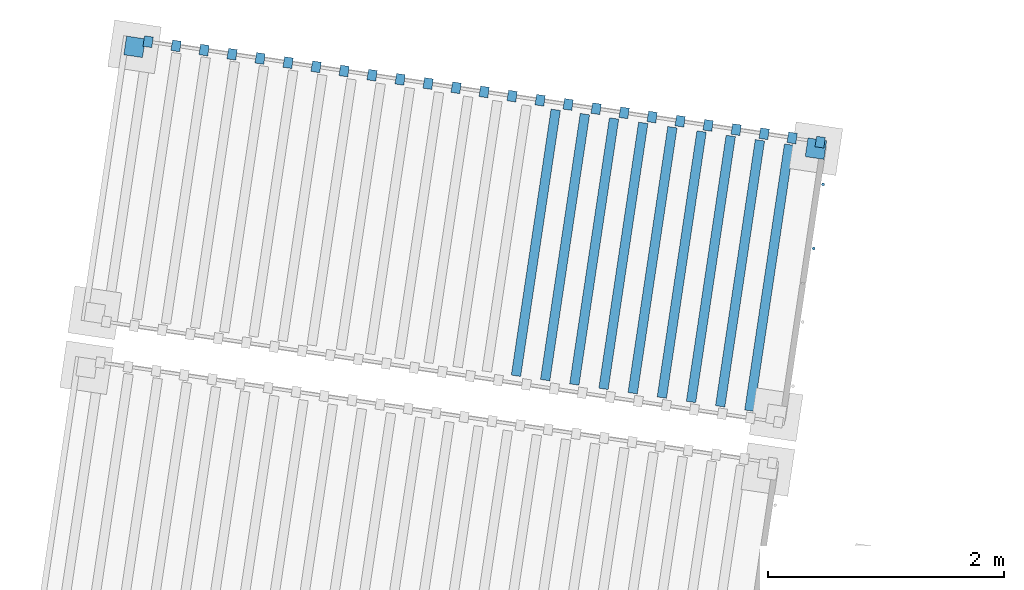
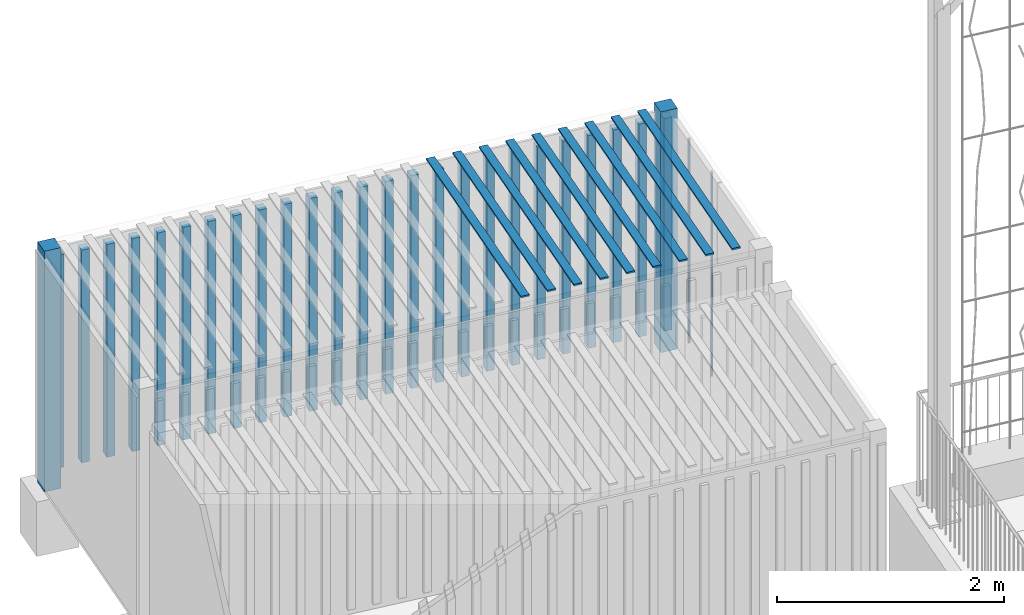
# One storey, part 82 of 142: 38 members, 1 element without a shape of its own.
"""IFC4 building model written with IfcOpenShell, lengths in metres."""

from ifc_helpers import new_model, si_unit, direction, frame, origin_with_axes, place, context, subcontext, project, spatial, polyline, circle, outline, extrude, material, material_profile, profile_set, profile_usage, type_object, element, aggregate, save


model = new_model("IFC4")

# Units and contexts
model_context = context("Model", 3, precision=1e-05, world=origin_with_axes(), true_north=direction((0.0, 1.0)))
body_context = subcontext(model_context, "Body", "Model", "MODEL_VIEW")
ifc_project = project(units=[si_unit("VOLUMEUNIT", "CUBIC_METRE"), si_unit("LENGTHUNIT", "METRE"), si_unit("AREAUNIT", "SQUARE_METRE")], contexts=[model_context])

# Site, building, storey
site_placement = place(None, origin_with_axes())
site = spatial("IfcSite", under=ifc_project, at=site_placement, Name="Lares · Rua das Mercês · artigo 4771")
building_placement = place(site_placement, frame((12.0, 10.2, 13.9), z_axis=(0.0, 0.0, 1.0), x_axis=(0.989015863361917, -0.147809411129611, 0.0)))
building = spatial("IfcBuilding", under=site, at=building_placement, Name="Casa Sobreposta")
storey_placement = place(building_placement, origin_with_axes())
storey = spatial("IfcBuildingStorey", under=building, at=storey_placement, Name="00 · Habitação e estacionamento", Elevation=13.9)

# Assembly, members
assembly_placement = place(storey_placement, origin_with_axes())
assembly = element("IfcElementAssembly", 1, at=assembly_placement, inside=storey, ObjectType="EXISTING_SHIPPING_CONTAINER", PredefinedType="USERDEFINED")
ifc_material_1 = material(Name="Aço galvanizado / Stahl verzinkt", Category="steel")
ifc_material_profile = material_profile(ifc_material_1, circle(Radius=0.0125))
ifc_profile_set = profile_set([ifc_material_profile], Name="D0.025")
ifc_profile_usage_1 = profile_usage(ifc_profile_set)
member_type = type_object("IfcMemberType", Name="D0.025 / galvanized", PredefinedType="NOTDEFINED", material=ifc_profile_set)
member_1_placement = place(assembly_placement, frame((-6.975, 9.27, -0.229831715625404), z_axis=(0.0, 0.0, 1.0), x_axis=(1.0, 0.0, 0.0)))
member_1 = element("IfcMember", 2, at=member_1_placement, type_object=member_type, material=ifc_profile_usage_1, Name="Contentor · varão de fecho", context=body_context, shape_type="SweptSolid", body=[
    extrude(circle(Radius=0.0125), origin_with_axes(), (0.0, 0.0, 1.0), 2.2),
])
ifc_profile_usage_2 = profile_usage(ifc_profile_set)
member_2_placement = place(assembly_placement, frame((-6.975, 9.82, -0.229831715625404), z_axis=(0.0, 0.0, 1.0), x_axis=(1.0, 0.0, 0.0)))
member_2 = element("IfcMember", 3, at=member_2_placement, type_object=member_type, material=ifc_profile_usage_2, Name="Contentor · varão de fecho", context=body_context, shape_type="SweptSolid", body=[
    extrude(circle(Radius=0.0125), origin_with_axes(), (0.0, 0.0, 1.0), 2.2),
])
ifc_material_2 = material(Name="Contentor · pintura 2", Category="steel")
member_3_placement = place(assembly_placement, frame((0.0, 0.0, -0.429831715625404), z_axis=(0.0, 0.0, 1.0), x_axis=(1.0, 0.0, 0.0)))
member_3 = element("IfcMember", 4, at=member_3_placement, material=ifc_material_2, Name="Contentor · canto", context=body_context, shape_type="SweptSolid", body=[
    extrude(outline(polyline([(-12.84, 10.03), (-12.84, 10.19), (-13.0, 10.19), (-13.0, 10.03), (-12.84, 10.03)])), origin_with_axes(), (0.0, 0.0, 1.0), 2.59),
])
member_4_placement = place(assembly_placement, frame((0.0, 0.0, -0.429831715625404), z_axis=(0.0, 0.0, 1.0), x_axis=(1.0, 0.0, 0.0)))
member_4 = element("IfcMember", 5, at=member_4_placement, material=ifc_material_2, Name="Contentor · canto", context=body_context, shape_type="SweptSolid", body=[
    extrude(outline(polyline([(-7.0, 10.03), (-7.0, 10.19), (-7.16, 10.19), (-7.16, 10.03), (-7.0, 10.03)])), origin_with_axes(), (0.0, 0.0, 1.0), 2.59),
])
member_5_placement = place(assembly_placement, frame((0.0, 0.0, -0.279831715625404), z_axis=(0.0, 0.0, 1.0), x_axis=(1.0, 0.0, 0.0)))
member_5 = element("IfcMember", 6, at=member_5_placement, material=ifc_material_2, Name="Contentor · nervura lateral", context=body_context, shape_type="SweptSolid", body=[
    extrude(outline(polyline([(-12.775, 10.125), (-12.775, 10.215), (-12.85, 10.215), (-12.85, 10.125), (-12.775, 10.125)])), origin_with_axes(), (0.0, 0.0, 1.0), 2.29),
])
member_6_placement = place(assembly_placement, frame((0.0, 0.0, -0.279831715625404), z_axis=(0.0, 0.0, 1.0), x_axis=(1.0, 0.0, 0.0)))
member_6 = element("IfcMember", 7, at=member_6_placement, material=ifc_material_2, Name="Contentor · nervura lateral", context=body_context, shape_type="SweptSolid", body=[
    extrude(outline(polyline([(-12.535, 10.125), (-12.535, 10.215), (-12.61, 10.215), (-12.61, 10.125), (-12.535, 10.125)])), origin_with_axes(), (0.0, 0.0, 1.0), 2.29),
])
member_7_placement = place(assembly_placement, frame((0.0, 0.0, -0.279831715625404), z_axis=(0.0, 0.0, 1.0), x_axis=(1.0, 0.0, 0.0)))
member_7 = element("IfcMember", 8, at=member_7_placement, material=ifc_material_2, Name="Contentor · nervura lateral", context=body_context, shape_type="SweptSolid", body=[
    extrude(outline(polyline([(-12.295, 10.125), (-12.295, 10.215), (-12.37, 10.215), (-12.37, 10.125), (-12.295, 10.125)])), origin_with_axes(), (0.0, 0.0, 1.0), 2.29),
])
member_8_placement = place(assembly_placement, frame((0.0, 0.0, -0.279831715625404), z_axis=(0.0, 0.0, 1.0), x_axis=(1.0, 0.0, 0.0)))
member_8 = element("IfcMember", 9, at=member_8_placement, material=ifc_material_2, Name="Contentor · nervura lateral", context=body_context, shape_type="SweptSolid", body=[
    extrude(outline(polyline([(-12.055, 10.125), (-12.055, 10.215), (-12.13, 10.215), (-12.13, 10.125), (-12.055, 10.125)])), origin_with_axes(), (0.0, 0.0, 1.0), 2.29),
])
member_9_placement = place(assembly_placement, frame((0.0, 0.0, -0.279831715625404), z_axis=(0.0, 0.0, 1.0), x_axis=(1.0, 0.0, 0.0)))
member_9 = element("IfcMember", 10, at=member_9_placement, material=ifc_material_2, Name="Contentor · nervura lateral", context=body_context, shape_type="SweptSolid", body=[
    extrude(outline(polyline([(-11.815, 10.125), (-11.815, 10.215), (-11.89, 10.215), (-11.89, 10.125), (-11.815, 10.125)])), origin_with_axes(), (0.0, 0.0, 1.0), 2.29),
])
member_10_placement = place(assembly_placement, frame((0.0, 0.0, -0.279831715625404), z_axis=(0.0, 0.0, 1.0), x_axis=(1.0, 0.0, 0.0)))
member_10 = element("IfcMember", 11, at=member_10_placement, material=ifc_material_2, Name="Contentor · nervura lateral", context=body_context, shape_type="SweptSolid", body=[
    extrude(outline(polyline([(-11.575, 10.125), (-11.575, 10.215), (-11.65, 10.215), (-11.65, 10.125), (-11.575, 10.125)])), origin_with_axes(), (0.0, 0.0, 1.0), 2.29),
])
member_11_placement = place(assembly_placement, frame((0.0, 0.0, -0.279831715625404), z_axis=(0.0, 0.0, 1.0), x_axis=(1.0, 0.0, 0.0)))
member_11 = element("IfcMember", 12, at=member_11_placement, material=ifc_material_2, Name="Contentor · nervura lateral", context=body_context, shape_type="SweptSolid", body=[
    extrude(outline(polyline([(-11.335, 10.125), (-11.335, 10.215), (-11.41, 10.215), (-11.41, 10.125), (-11.335, 10.125)])), origin_with_axes(), (0.0, 0.0, 1.0), 2.29),
])
member_12_placement = place(assembly_placement, frame((0.0, 0.0, -0.279831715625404), z_axis=(0.0, 0.0, 1.0), x_axis=(1.0, 0.0, 0.0)))
member_12 = element("IfcMember", 13, at=member_12_placement, material=ifc_material_2, Name="Contentor · nervura lateral", context=body_context, shape_type="SweptSolid", body=[
    extrude(outline(polyline([(-11.095, 10.125), (-11.095, 10.215), (-11.17, 10.215), (-11.17, 10.125), (-11.095, 10.125)])), origin_with_axes(), (0.0, 0.0, 1.0), 2.29),
])
member_13_placement = place(assembly_placement, frame((0.0, 0.0, -0.279831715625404), z_axis=(0.0, 0.0, 1.0), x_axis=(1.0, 0.0, 0.0)))
member_13 = element("IfcMember", 14, at=member_13_placement, material=ifc_material_2, Name="Contentor · nervura lateral", context=body_context, shape_type="SweptSolid", body=[
    extrude(outline(polyline([(-10.855, 10.125), (-10.855, 10.215), (-10.93, 10.215), (-10.93, 10.125), (-10.855, 10.125)])), origin_with_axes(), (0.0, 0.0, 1.0), 2.29),
])
member_14_placement = place(assembly_placement, frame((0.0, 0.0, -0.279831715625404), z_axis=(0.0, 0.0, 1.0), x_axis=(1.0, 0.0, 0.0)))
member_14 = element("IfcMember", 15, at=member_14_placement, material=ifc_material_2, Name="Contentor · nervura lateral", context=body_context, shape_type="SweptSolid", body=[
    extrude(outline(polyline([(-10.615, 10.125), (-10.615, 10.215), (-10.69, 10.215), (-10.69, 10.125), (-10.615, 10.125)])), origin_with_axes(), (0.0, 0.0, 1.0), 2.29),
])
member_15_placement = place(assembly_placement, frame((0.0, 0.0, -0.279831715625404), z_axis=(0.0, 0.0, 1.0), x_axis=(1.0, 0.0, 0.0)))
member_15 = element("IfcMember", 16, at=member_15_placement, material=ifc_material_2, Name="Contentor · nervura lateral", context=body_context, shape_type="SweptSolid", body=[
    extrude(outline(polyline([(-10.375, 10.125), (-10.375, 10.215), (-10.45, 10.215), (-10.45, 10.125), (-10.375, 10.125)])), origin_with_axes(), (0.0, 0.0, 1.0), 2.29),
])
member_16_placement = place(assembly_placement, frame((0.0, 0.0, -0.279831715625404), z_axis=(0.0, 0.0, 1.0), x_axis=(1.0, 0.0, 0.0)))
member_16 = element("IfcMember", 17, at=member_16_placement, material=ifc_material_2, Name="Contentor · nervura lateral", context=body_context, shape_type="SweptSolid", body=[
    extrude(outline(polyline([(-10.135, 10.125), (-10.135, 10.215), (-10.21, 10.215), (-10.21, 10.125), (-10.135, 10.125)])), origin_with_axes(), (0.0, 0.0, 1.0), 2.29),
])
member_17_placement = place(assembly_placement, frame((0.0, 0.0, -0.279831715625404), z_axis=(0.0, 0.0, 1.0), x_axis=(1.0, 0.0, 0.0)))
member_17 = element("IfcMember", 18, at=member_17_placement, material=ifc_material_2, Name="Contentor · nervura lateral", context=body_context, shape_type="SweptSolid", body=[
    extrude(outline(polyline([(-9.895, 10.125), (-9.895, 10.215), (-9.97, 10.215), (-9.97, 10.125), (-9.895, 10.125)])), origin_with_axes(), (0.0, 0.0, 1.0), 2.29),
])
member_18_placement = place(assembly_placement, frame((0.0, 0.0, -0.279831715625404), z_axis=(0.0, 0.0, 1.0), x_axis=(1.0, 0.0, 0.0)))
member_18 = element("IfcMember", 19, at=member_18_placement, material=ifc_material_2, Name="Contentor · nervura lateral", context=body_context, shape_type="SweptSolid", body=[
    extrude(outline(polyline([(-9.655, 10.125), (-9.655, 10.215), (-9.73, 10.215), (-9.73, 10.125), (-9.655, 10.125)])), origin_with_axes(), (0.0, 0.0, 1.0), 2.29),
])
member_19_placement = place(assembly_placement, frame((0.0, 0.0, -0.279831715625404), z_axis=(0.0, 0.0, 1.0), x_axis=(1.0, 0.0, 0.0)))
member_19 = element("IfcMember", 20, at=member_19_placement, material=ifc_material_2, Name="Contentor · nervura lateral", context=body_context, shape_type="SweptSolid", body=[
    extrude(outline(polyline([(-9.415, 10.125), (-9.415, 10.215), (-9.49, 10.215), (-9.49, 10.125), (-9.415, 10.125)])), origin_with_axes(), (0.0, 0.0, 1.0), 2.29),
])
member_20_placement = place(assembly_placement, frame((0.0, 0.0, -0.279831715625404), z_axis=(0.0, 0.0, 1.0), x_axis=(1.0, 0.0, 0.0)))
member_20 = element("IfcMember", 21, at=member_20_placement, material=ifc_material_2, Name="Contentor · nervura lateral", context=body_context, shape_type="SweptSolid", body=[
    extrude(outline(polyline([(-9.175, 10.125), (-9.175, 10.215), (-9.25, 10.215), (-9.25, 10.125), (-9.175, 10.125)])), origin_with_axes(), (0.0, 0.0, 1.0), 2.29),
])
member_21_placement = place(assembly_placement, frame((0.0, 0.0, -0.279831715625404), z_axis=(0.0, 0.0, 1.0), x_axis=(1.0, 0.0, 0.0)))
member_21 = element("IfcMember", 22, at=member_21_placement, material=ifc_material_2, Name="Contentor · nervura lateral", context=body_context, shape_type="SweptSolid", body=[
    extrude(outline(polyline([(-8.935, 10.125), (-8.935, 10.215), (-9.01, 10.215), (-9.01, 10.125), (-8.935, 10.125)])), origin_with_axes(), (0.0, 0.0, 1.0), 2.29),
])
member_22_placement = place(assembly_placement, frame((0.0, 0.0, -0.279831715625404), z_axis=(0.0, 0.0, 1.0), x_axis=(1.0, 0.0, 0.0)))
member_22 = element("IfcMember", 23, at=member_22_placement, material=ifc_material_2, Name="Contentor · nervura lateral", context=body_context, shape_type="SweptSolid", body=[
    extrude(outline(polyline([(-8.695, 10.125), (-8.695, 10.215), (-8.77, 10.215), (-8.77, 10.125), (-8.695, 10.125)])), origin_with_axes(), (0.0, 0.0, 1.0), 2.29),
])
member_23_placement = place(assembly_placement, frame((0.0, 0.0, -0.279831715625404), z_axis=(0.0, 0.0, 1.0), x_axis=(1.0, 0.0, 0.0)))
member_23 = element("IfcMember", 24, at=member_23_placement, material=ifc_material_2, Name="Contentor · nervura lateral", context=body_context, shape_type="SweptSolid", body=[
    extrude(outline(polyline([(-8.455, 10.125), (-8.455, 10.215), (-8.53, 10.215), (-8.53, 10.125), (-8.455, 10.125)])), origin_with_axes(), (0.0, 0.0, 1.0), 2.29),
])
member_24_placement = place(assembly_placement, frame((0.0, 0.0, -0.279831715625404), z_axis=(0.0, 0.0, 1.0), x_axis=(1.0, 0.0, 0.0)))
member_24 = element("IfcMember", 25, at=member_24_placement, material=ifc_material_2, Name="Contentor · nervura lateral", context=body_context, shape_type="SweptSolid", body=[
    extrude(outline(polyline([(-8.215, 10.125), (-8.215, 10.215), (-8.29, 10.215), (-8.29, 10.125), (-8.215, 10.125)])), origin_with_axes(), (0.0, 0.0, 1.0), 2.29),
])
member_25_placement = place(assembly_placement, frame((0.0, 0.0, -0.279831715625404), z_axis=(0.0, 0.0, 1.0), x_axis=(1.0, 0.0, 0.0)))
member_25 = element("IfcMember", 26, at=member_25_placement, material=ifc_material_2, Name="Contentor · nervura lateral", context=body_context, shape_type="SweptSolid", body=[
    extrude(outline(polyline([(-7.975, 10.125), (-7.975, 10.215), (-8.05, 10.215), (-8.05, 10.125), (-7.975, 10.125)])), origin_with_axes(), (0.0, 0.0, 1.0), 2.29),
])
member_26_placement = place(assembly_placement, frame((0.0, 0.0, -0.279831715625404), z_axis=(0.0, 0.0, 1.0), x_axis=(1.0, 0.0, 0.0)))
member_26 = element("IfcMember", 27, at=member_26_placement, material=ifc_material_2, Name="Contentor · nervura lateral", context=body_context, shape_type="SweptSolid", body=[
    extrude(outline(polyline([(-7.73499999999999, 10.125), (-7.73499999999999, 10.215), (-7.81, 10.215), (-7.81, 10.125), (-7.73499999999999, 10.125)])), origin_with_axes(), (0.0, 0.0, 1.0), 2.29),
])
member_27_placement = place(assembly_placement, frame((0.0, 0.0, -0.279831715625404), z_axis=(0.0, 0.0, 1.0), x_axis=(1.0, 0.0, 0.0)))
member_27 = element("IfcMember", 28, at=member_27_placement, material=ifc_material_2, Name="Contentor · nervura lateral", context=body_context, shape_type="SweptSolid", body=[
    extrude(outline(polyline([(-7.49499999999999, 10.125), (-7.49499999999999, 10.215), (-7.56999999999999, 10.215), (-7.56999999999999, 10.125), (-7.49499999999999, 10.125)])), origin_with_axes(), (0.0, 0.0, 1.0), 2.29),
])
member_28_placement = place(assembly_placement, frame((0.0, 0.0, -0.279831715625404), z_axis=(0.0, 0.0, 1.0), x_axis=(1.0, 0.0, 0.0)))
member_28 = element("IfcMember", 29, at=member_28_placement, material=ifc_material_2, Name="Contentor · nervura lateral", context=body_context, shape_type="SweptSolid", body=[
    extrude(outline(polyline([(-7.25499999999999, 10.125), (-7.25499999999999, 10.215), (-7.32999999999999, 10.215), (-7.32999999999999, 10.125), (-7.25499999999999, 10.125)])), origin_with_axes(), (0.0, 0.0, 1.0), 2.29),
])
member_29_placement = place(assembly_placement, frame((0.0, 0.0, -0.279831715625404), z_axis=(0.0, 0.0, 1.0), x_axis=(1.0, 0.0, 0.0)))
member_29 = element("IfcMember", 30, at=member_29_placement, material=ifc_material_2, Name="Contentor · nervura lateral", context=body_context, shape_type="SweptSolid", body=[
    extrude(outline(polyline([(-7.01499999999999, 10.125), (-7.01499999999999, 10.215), (-7.08999999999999, 10.215), (-7.08999999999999, 10.125), (-7.01499999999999, 10.125)])), origin_with_axes(), (0.0, 0.0, 1.0), 2.29),
])
member_30_placement = place(assembly_placement, frame((0.0, 0.0, 2.1551682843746), z_axis=(0.0, 0.0, 1.0), x_axis=(1.0, 0.0, 0.0)))
member_30 = element("IfcMember", 31, at=member_30_placement, material=ifc_material_2, Name="Contentor · nervura cobertura", context=body_context, shape_type="SweptSolid", body=[
    extrude(outline(polyline([(-9.27, 7.83), (-9.27, 10.11), (-9.35, 10.11), (-9.35, 7.83), (-9.27, 7.83)])), origin_with_axes(), (0.0, 0.0, 1.0), 0.018),
])
member_31_placement = place(assembly_placement, frame((0.0, 0.0, 2.1551682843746), z_axis=(0.0, 0.0, 1.0), x_axis=(1.0, 0.0, 0.0)))
member_31 = element("IfcMember", 32, at=member_31_placement, material=ifc_material_2, Name="Contentor · nervura cobertura", context=body_context, shape_type="SweptSolid", body=[
    extrude(outline(polyline([(-9.02, 7.83), (-9.02, 10.11), (-9.1, 10.11), (-9.1, 7.83), (-9.02, 7.83)])), origin_with_axes(), (0.0, 0.0, 1.0), 0.018),
])
member_32_placement = place(assembly_placement, frame((0.0, 0.0, 2.1551682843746), z_axis=(0.0, 0.0, 1.0), x_axis=(1.0, 0.0, 0.0)))
member_32 = element("IfcMember", 33, at=member_32_placement, material=ifc_material_2, Name="Contentor · nervura cobertura", context=body_context, shape_type="SweptSolid", body=[
    extrude(outline(polyline([(-8.77, 7.83), (-8.77, 10.11), (-8.85, 10.11), (-8.85, 7.83), (-8.77, 7.83)])), origin_with_axes(), (0.0, 0.0, 1.0), 0.018),
])
member_33_placement = place(assembly_placement, frame((0.0, 0.0, 2.1551682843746), z_axis=(0.0, 0.0, 1.0), x_axis=(1.0, 0.0, 0.0)))
member_33 = element("IfcMember", 34, at=member_33_placement, material=ifc_material_2, Name="Contentor · nervura cobertura", context=body_context, shape_type="SweptSolid", body=[
    extrude(outline(polyline([(-8.52, 7.83), (-8.52, 10.11), (-8.6, 10.11), (-8.6, 7.83), (-8.52, 7.83)])), origin_with_axes(), (0.0, 0.0, 1.0), 0.018),
])
member_34_placement = place(assembly_placement, frame((0.0, 0.0, 2.1551682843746), z_axis=(0.0, 0.0, 1.0), x_axis=(1.0, 0.0, 0.0)))
member_34 = element("IfcMember", 35, at=member_34_placement, material=ifc_material_2, Name="Contentor · nervura cobertura", context=body_context, shape_type="SweptSolid", body=[
    extrude(outline(polyline([(-8.27, 7.83), (-8.27, 10.11), (-8.35, 10.11), (-8.35, 7.83), (-8.27, 7.83)])), origin_with_axes(), (0.0, 0.0, 1.0), 0.018),
])
member_35_placement = place(assembly_placement, frame((0.0, 0.0, 2.1551682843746), z_axis=(0.0, 0.0, 1.0), x_axis=(1.0, 0.0, 0.0)))
member_35 = element("IfcMember", 36, at=member_35_placement, material=ifc_material_2, Name="Contentor · nervura cobertura", context=body_context, shape_type="SweptSolid", body=[
    extrude(outline(polyline([(-8.02, 7.83), (-8.02, 10.11), (-8.1, 10.11), (-8.1, 7.83), (-8.02, 7.83)])), origin_with_axes(), (0.0, 0.0, 1.0), 0.018),
])
member_36_placement = place(assembly_placement, frame((0.0, 0.0, 2.1551682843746), z_axis=(0.0, 0.0, 1.0), x_axis=(1.0, 0.0, 0.0)))
member_36 = element("IfcMember", 37, at=member_36_placement, material=ifc_material_2, Name="Contentor · nervura cobertura", context=body_context, shape_type="SweptSolid", body=[
    extrude(outline(polyline([(-7.77, 7.83), (-7.77, 10.11), (-7.85, 10.11), (-7.85, 7.83), (-7.77, 7.83)])), origin_with_axes(), (0.0, 0.0, 1.0), 0.018),
])
member_37_placement = place(assembly_placement, frame((0.0, 0.0, 2.1551682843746), z_axis=(0.0, 0.0, 1.0), x_axis=(1.0, 0.0, 0.0)))
member_37 = element("IfcMember", 38, at=member_37_placement, material=ifc_material_2, Name="Contentor · nervura cobertura", context=body_context, shape_type="SweptSolid", body=[
    extrude(outline(polyline([(-7.52, 7.83), (-7.52, 10.11), (-7.6, 10.11), (-7.6, 7.83), (-7.52, 7.83)])), origin_with_axes(), (0.0, 0.0, 1.0), 0.018),
])
member_38_placement = place(assembly_placement, frame((0.0, 0.0, 2.1551682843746), z_axis=(0.0, 0.0, 1.0), x_axis=(1.0, 0.0, 0.0)))
member_38 = element("IfcMember", 39, at=member_38_placement, material=ifc_material_2, Name="Contentor · nervura cobertura", context=body_context, shape_type="SweptSolid", body=[
    extrude(outline(polyline([(-7.27, 7.83), (-7.27, 10.11), (-7.35, 10.11), (-7.35, 7.83), (-7.27, 7.83)])), origin_with_axes(), (0.0, 0.0, 1.0), 0.018),
])
aggregate(assembly, [member_3, member_4, member_5, member_6, member_7, member_8, member_9, member_10, member_11, member_12, member_13, member_14, member_15, member_16, member_17, member_18, member_19, member_20, member_21, member_22, member_23, member_24, member_25, member_26, member_27, member_28, member_29, member_1, member_2, member_30, member_31, member_32, member_33, member_34, member_35, member_36, member_37, member_38])

save(model, "model.ifc")
